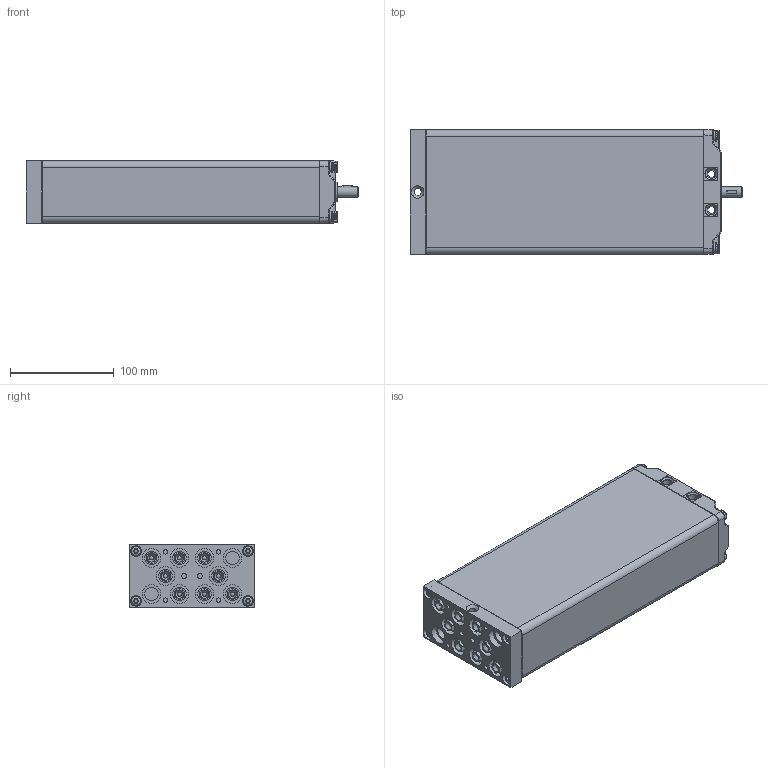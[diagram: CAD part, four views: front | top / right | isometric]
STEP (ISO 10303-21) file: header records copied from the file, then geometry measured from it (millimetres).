
FILE_DESCRIPTION(/* description */ ('Unknown'),/* implementation_level */ '2;1');
FILE_NAME(/* name */ '102.00201 Pumpe PB 8815 W',/* time_stamp */ '2016-11-14T17:20:19+01:00',/* author */ ('Unknown'),/* organization */ ('Unknown'),/* preprocessor_version */ 'ST-DEVELOPER v16.7',/* originating_system */ 'DEX',/* authorisation */ $);
FILE_SCHEMA (('AUTOMOTIVE_DESIGN {1 0 10303 214 3 1 1}'));
Products named in the file (16): 102.00201; 115.10031; 125.00061; 115.00008; 142.00021; 125.00021; 142.00013; 125.00141; 115.00140; 126.00006; 122.00040; 119.00041; 126.00036; 142.00057; 142.00083; 142.00017
Assembly tree (33 placements, depth 3):
  102.00201
    115.10031  x8
      125.00061
      115.00008
      142.00021
      125.00021
    142.00013  x8
    125.00141
    115.00140
      126.00006
      122.00040
    119.00041
    126.00036
    142.00057
    142.00083  x4
    142.00017  x2
Bounding box: 320.5 x 120 x 60.3 mm (x, y, z)
Volume: 471837.1 mm3; surface area: 300497.8 mm2
Topology: 44 solids, 44 shells, 2154 faces, 4899 edges, 2864 vertices
Faces by surface type: plane 763, cylinder 489, bspline 377, cone 355, torus 112, sphere 58
Full cylindrical faces by diameter (mm): 3.5 x8, 4.1 x8, 4.134 x4, 4.2 x8, 4.917 x2, 5 x12, 5.8 x4, 6 x2, 6.8 x1, 6.917 x16, 8 x17, 8.5 x4, 9.8 x8, 10 x5, 10.4 x1, 10.5 x4, 12.5 x8, 13 x26, 14 x1, 14.4 x8, 17.9 x16, 18 x11, 19 x1
Entity records: 60453 total; most frequent: CARTESIAN_POINT 28883, ORIENTED_EDGE 5080, DIRECTION 4443, EDGE_CURVE 2540, AXIS2_PLACEMENT_3D 1725, VERTEX_POINT 1605, FACE_BOUND 1417, EDGE_LOOP 1416
